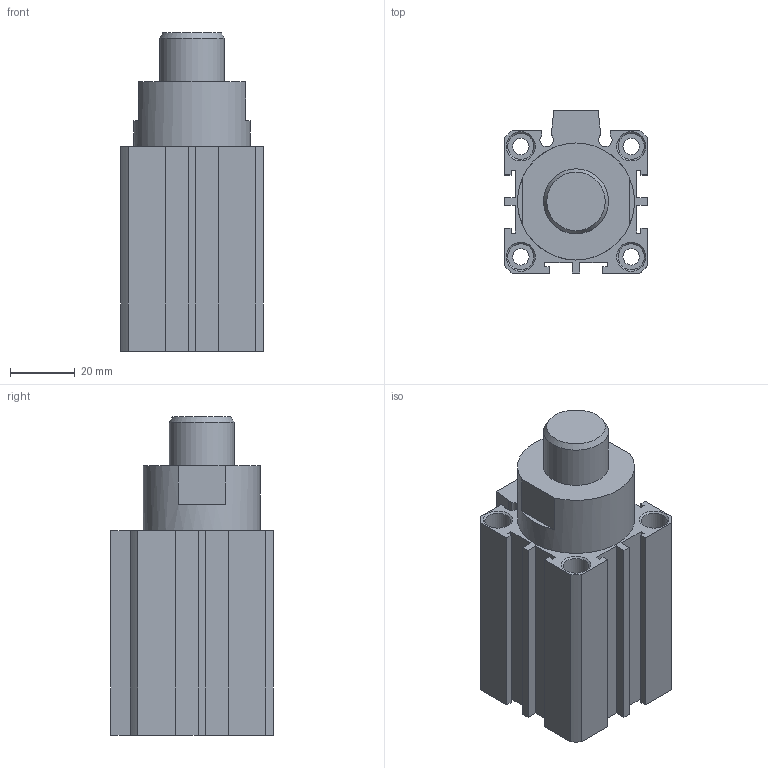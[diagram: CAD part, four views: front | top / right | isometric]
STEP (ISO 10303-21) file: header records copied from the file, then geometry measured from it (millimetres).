
FILE_DESCRIPTION((''),'2;1');
FILE_NAME('I:\3D電子目錄\氣缸\STB\STB32\STB32x15.stp','2007-09-19T13:24:32',('Administrator'),(''),'Autodesk Inventor 11','Autodesk Inventor 11','');
FILE_SCHEMA(('AUTOMOTIVE_DESIGN { 1 0 10303 214 1 1 1 1 }'));
Length unit declared in the file: millimetre
Products named in the file (1): STB32
Bounding box: 44 x 50 x 98 mm (x, y, z)
Volume: 129531.2 mm3; surface area: 28826.5 mm2
Topology: 1 solids, 1 shells, 117 faces, 277 edges, 181 vertices
Faces by surface type: plane 70, cylinder 26, cone 13, bspline 7, torus 1
Full cylindrical faces by diameter (mm): 2.2 x2, 5.1 x4, 8 x8, 20 x1, 23 x1, 34 x2, 36 x2
Entity records: 3242 total; most frequent: CARTESIAN_POINT 632, DIRECTION 532, ORIENTED_EDGE 468, EDGE_CURVE 234, AXIS2_PLACEMENT_3D 187, EDGE_LOOP 182, VERTEX_POINT 176, VECTOR 158
